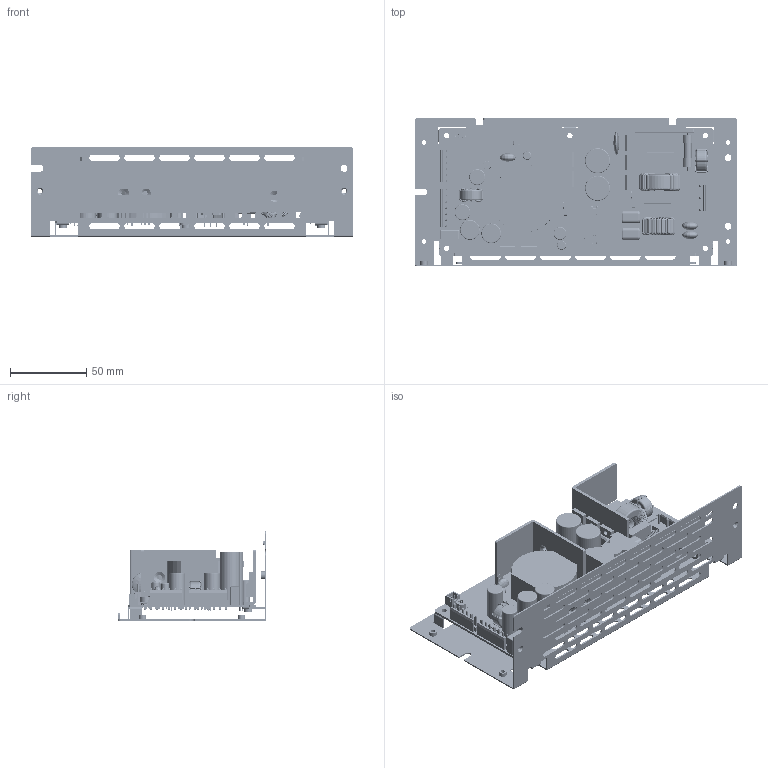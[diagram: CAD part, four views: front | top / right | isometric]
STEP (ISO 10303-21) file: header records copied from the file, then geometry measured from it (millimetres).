
FILE_DESCRIPTION((''),'2;1');
FILE_NAME('ASM0001_ASM','2016-08-29T',('ERIC.YP.CHEN'),(''),'PRO/ENGINEER BY PARAMETRIC TECHNOLOGY CORPORATION, 2010280','PRO/ENGINEER BY PARAMETRIC TECHNOLOGY CORPORATION, 2010280','');
FILE_SCHEMA(('CONFIG_CONTROL_DESIGN'));
Products named in the file (29): 331609650101_CHASSIS; PWB; CON2_BODY; B2B-XH-A; B6P_VH; B7P_VH; VR1_; LEG1_; VR_LEG__ASM; HSK1; HSK2; HSK3; 242017402335_Q1; D10; 202013660108_D101; PRT0001; PRT0002; ASM0003_ASM; ASM0002_ASM; CY_1; NTC_HOLDER; NTC1_12; Z1; F1; 2875262201_FL2; 2875143500_FL1; 2875251901_FL1; C5; ASM0001_ASM
Assembly tree (40 placements, depth 4):
  ASM0001_ASM
    331609650101_CHASSIS
    PWB
    CON2_BODY
    B2B-XH-A
    B6P_VH
    B7P_VH
    VR_LEG__ASM
      VR1_
      LEG1_  x3
    HSK1
    HSK2
    HSK3
    242017402335_Q1  x4
    D10
    202013660108_D101  x2
    ASM0002_ASM
      ASM0003_ASM
        PRT0001
        PRT0002  x2
    CY_1  x3
    NTC_HOLDER
    NTC1_12
    Z1  x2
    F1
    2875262201_FL2
    2875143500_FL1  x2
    2875251901_FL1
    C5  x2
Bounding box: 212 x 98 x 59 mm (x, y, z)
Volume: 190387.6 mm3; surface area: 168142.4 mm2
Topology: 62 solids, 62 shells, 4916 faces, 12330 edges, 7267 vertices
Faces by surface type: cylinder 1928, plane 1538, torus 1327, bspline 44, sphere 39, cone 28, revolution 12
Entity records: 160910 total; most frequent: CARTESIAN_POINT 51850, DIRECTION 24742, ORIENTED_EDGE 22134, EDGE_CURVE 11067, AXIS2_PLACEMENT_3D 9998, VERTEX_POINT 6553, CIRCLE 5570, VECTOR 4742
